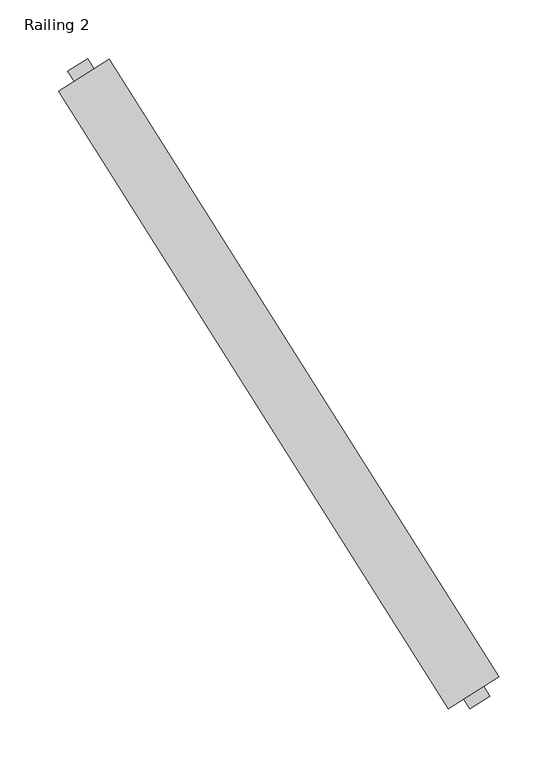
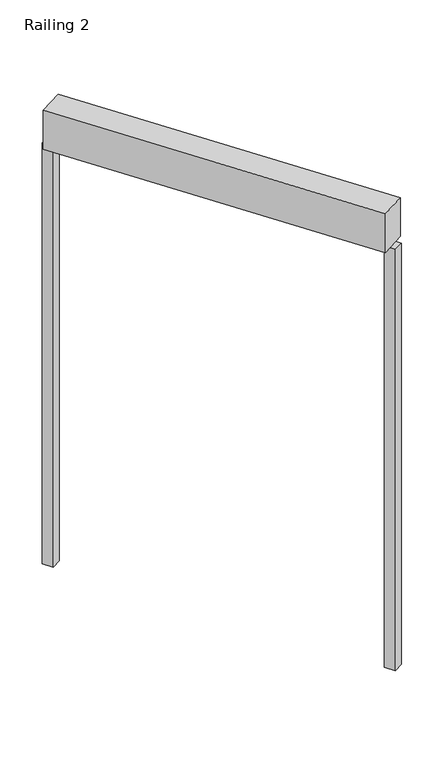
"""IFC4 building model written with IfcOpenShell, lengths in millimetres: railing geometry, Railing 2."""

from ifc_helpers import new_model, si_unit, frame, origin, place, context, project, spatial, polyline, outline, extrude, source, transform, mapped, element, save


def railing_2_3f007b2c(model_context):
    return source(origin(), model_context, "Body", "SweptSolid", [
        extrude(outline(polyline([(37338.2301591, 12336.0644221), (37295.2763793, 12308.9422393), (36964.2576127, 12833.1812842), (37007.2113925, 12860.303467), (37338.2301591, 12336.0644221)])), frame((0.0, 0.0, 3323.8), z_axis=(0.0, 0.0, 1.0), x_axis=(1.0, 0.0, 0.0)), (0.0, 0.0, 1.0), 76.2),
        extrude(outline(polyline([(36999.5289835, 12843.6259195), (36982.6180465, 12832.9478947), (36971.9400218, 12849.8588317), (36988.8509587, 12860.5368564), (36999.5289835, 12843.6259195)])), frame((0.0, 0.0, 2500.0), z_axis=(0.0, 0.0, 1.0), x_axis=(1.0, 0.0, 0.0)), (0.0, 0.0, 1.0), 823.8),
        extrude(outline(polyline([(37330.54775, 12319.3868746), (37313.6368131, 12308.7088498), (37302.9587884, 12325.6197868), (37319.8697253, 12336.2978115), (37330.54775, 12319.3868746)])), frame((0.0, 0.0, 2500.0), z_axis=(0.0, 0.0, 1.0), x_axis=(1.0, 0.0, 0.0)), (0.0, 0.0, 1.0), 823.8),
    ])


if __name__ == "__main__":
    model = new_model("IFC4")
    model_context = context("Model", 3, world=origin())
    ifc_project = project(units=[si_unit("LENGTHUNIT", "METRE", prefix="MILLI")], contexts=[model_context])
    site = spatial("IfcSite", under=ifc_project)
    building = spatial("IfcBuilding", under=site)
    placement = place(None, origin())
    railing_2_shape = railing_2_3f007b2c(model_context)
    element("IfcRailing", 1, ObjectType="Railing 2", at=placement, inside=building, context=model_context, shape_type="MappedRepresentation", body=[
        mapped(railing_2_shape, transform((0.0, 0.0, 0.0), x_axis=(1.0, 0.0, 0.0), y_axis=(0.0, 1.0, 0.0), z_axis=(0.0, 0.0, 1.0))),
    ])
    save(model, "model.ifc")
